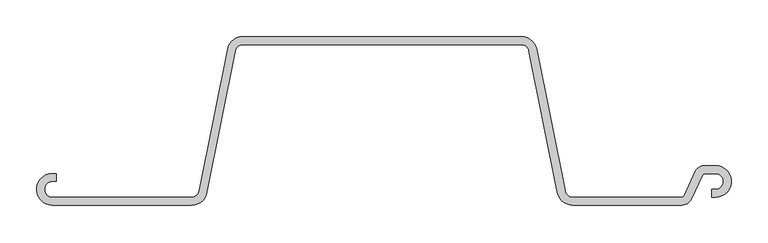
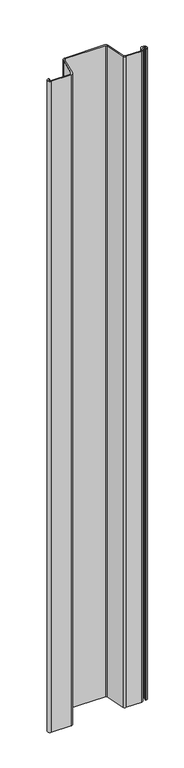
"""IFC4 building model written with IfcOpenShell, lengths in millimetres: proxy geometry, 鋼矢板10H型 : 鋼矢板10H型."""

from ifc_helpers import new_model, si_unit, point, frame, frame_2d, origin, place, context, project, spatial, polyline, circle_curve, trimmed, segment, composite_curve, outline, extrude, source, transform, mapped, element, save


def generic_models_b851e550(model_context):
    return source(origin(), model_context, "Body", "SweptSolid", [
        extrude(outline(composite_curve([segment(trimmed(circle_curve(frame_2d((409.1972607, -101.1142857)), 13.8857143), [point((421.7819917, -106.9826421))], [point((409.1972607, -115.0))], False, "CARTESIAN"), True, "CONTINUOUS"), segment(polyline([(409.1972607, -115.0), (260.2008232, -115.0)]), True, "CONTINUOUS"), segment(trimmed(circle_curve(frame_2d((260.2008232, -93.4)), 21.6), [point((260.2008232, -115.0))], [point((239.0202806, -97.6361085))], False, "CARTESIAN"), True, "CONTINUOUS"), segment(polyline([(239.0202806, -97.6361085), (200.3894481, 95.5180543)]), True, "CONTINUOUS"), segment(trimmed(circle_curve(frame_2d((189.7991768, 93.4)), 10.8), [point((200.3894481, 95.5180543))], [point((189.7991768, 104.2))], True, "CARTESIAN"), True, "CONTINUOUS"), segment(polyline([(189.7991768, 104.2), (-189.7991768, 104.2)]), True, "CONTINUOUS"), segment(trimmed(circle_curve(frame_2d((-189.7991768, 93.4)), 10.8), [point((-189.7991768, 104.2))], [point((-200.3894481, 95.5180543))], True, "CARTESIAN"), True, "CONTINUOUS"), segment(polyline([(-200.3894481, 95.5180543), (-239.0202806, -97.6361085)]), True, "CONTINUOUS"), segment(trimmed(circle_curve(frame_2d((-260.2008232, -93.4)), 21.6), [point((-239.0202806, -97.6361085))], [point((-260.2008232, -115.0))], False, "CARTESIAN"), True, "CONTINUOUS"), segment(polyline([(-260.2008232, -115.0), (-450.0, -115.0)]), True, "CONTINUOUS"), segment(trimmed(circle_curve(frame_2d((-450.0, -93.4)), 21.6), [point((-450.0, -115.0))], [point((-450.0, -71.8))], False, "CARTESIAN"), True, "CONTINUOUS"), segment(polyline([(-450.0, -71.8), (-445.0, -71.8), (-445.0, -82.6), (-450.0, -82.6)]), True, "CONTINUOUS"), segment(trimmed(circle_curve(frame_2d((-450.0, -93.4)), 10.8), [point((-450.0, -82.6))], [point((-450.0, -104.2))], True, "CARTESIAN"), True, "CONTINUOUS"), segment(polyline([(-450.0, -104.2), (-260.2008232, -104.2)]), True, "CONTINUOUS"), segment(trimmed(circle_curve(frame_2d((-260.2008232, -93.4)), 10.8), [point((-260.2008232, -104.2))], [point((-249.6105519, -95.5180543))], True, "CARTESIAN"), True, "CONTINUOUS"), segment(polyline([(-249.6105519, -95.5180543), (-210.9797194, 97.6361085)]), True, "CONTINUOUS"), segment(trimmed(circle_curve(frame_2d((-189.7991768, 93.4)), 21.6), [point((-210.9797194, 97.6361085))], [point((-189.7991768, 115.0))], False, "CARTESIAN"), True, "CONTINUOUS"), segment(polyline([(-189.7991768, 115.0), (189.7991768, 115.0)]), True, "CONTINUOUS"), segment(trimmed(circle_curve(frame_2d((189.7991768, 93.4)), 21.6), [point((189.7991768, 115.0))], [point((210.9797194, 97.6361085))], False, "CARTESIAN"), True, "CONTINUOUS"), segment(polyline([(210.9797194, 97.6361085), (249.6105519, -95.5180543)]), True, "CONTINUOUS"), segment(trimmed(circle_curve(frame_2d((260.2008232, -93.4)), 10.8), [point((249.6105519, -95.5180543))], [point((260.2008232, -104.2))], True, "CARTESIAN"), True, "CONTINUOUS"), segment(polyline([(260.2008232, -104.2), (409.1972607, -104.2)]), True, "CONTINUOUS"), segment(trimmed(circle_curve(frame_2d((409.1972607, -101.1142857)), 3.0857143), [point((409.1972607, -104.2))], [point((411.9938676, -102.4183649))], True, "CARTESIAN"), True, "CONTINUOUS"), segment(polyline([(411.9938676, -102.4183649), (427.569013, -69.0173579)]), True, "CONTINUOUS"), segment(trimmed(circle_curve(frame_2d((440.153744, -74.8857143)), 13.8857143), [point((427.569013, -69.0173579))], [point((440.153744, -61.0))], False, "CARTESIAN"), True, "CONTINUOUS"), segment(polyline([(440.153744, -61.0), (455.0, -61.0)]), True, "CONTINUOUS"), segment(trimmed(circle_curve(frame_2d((455.0, -82.6)), 21.6), [point((455.0, -61.0))], [point((455.0, -104.2))], False, "CARTESIAN"), True, "CONTINUOUS"), segment(polyline([(455.0, -104.2), (450.0, -104.2), (450.0, -93.4), (455.0, -93.4)]), True, "CONTINUOUS"), segment(trimmed(circle_curve(frame_2d((455.0, -82.6)), 10.8), [point((455.0, -93.4))], [point((455.0, -71.8))], True, "CARTESIAN"), True, "CONTINUOUS"), segment(polyline([(455.0, -71.8), (440.153744, -71.8)]), True, "CONTINUOUS"), segment(trimmed(circle_curve(frame_2d((440.153744, -74.8857143)), 3.0857143), [point((440.153744, -71.8))], [point((437.3571371, -73.5816351))], True, "CARTESIAN"), True, "CONTINUOUS"), segment(polyline([(437.3571371, -73.5816351), (421.7819917, -106.9826421)]), True, "CONTINUOUS")], self_intersect=False)), frame((0.0, 0.0, -6500.0), z_axis=(0.0, 0.0, 1.0), x_axis=(1.0, 0.0, 0.0)), (0.0, 0.0, 1.0), 6500.0),
    ])


if __name__ == "__main__":
    model = new_model("IFC4")
    model_context = context("Model", 3, world=origin())
    ifc_project = project(units=[si_unit("LENGTHUNIT", "METRE", prefix="MILLI")], contexts=[model_context])
    site = spatial("IfcSite", under=ifc_project)
    building = spatial("IfcBuilding", under=site)
    placement = place(None, origin())
    generic_models_shape = generic_models_b851e550(model_context)
    element("IfcBuildingElementProxy", 1, Name="鋼矢板10H型 : 鋼矢板10H型", ObjectType="鋼矢板10H型 : 鋼矢板10H型", at=placement, inside=building, context=model_context, shape_type="MappedRepresentation", body=[
        mapped(generic_models_shape, transform((0.0, 0.0, 0.0), x_axis=(1.0, 0.0, 0.0), y_axis=(0.0, 1.0, 0.0), z_axis=(0.0, 0.0, 1.0))),
    ])
    save(model, "model.ifc")
